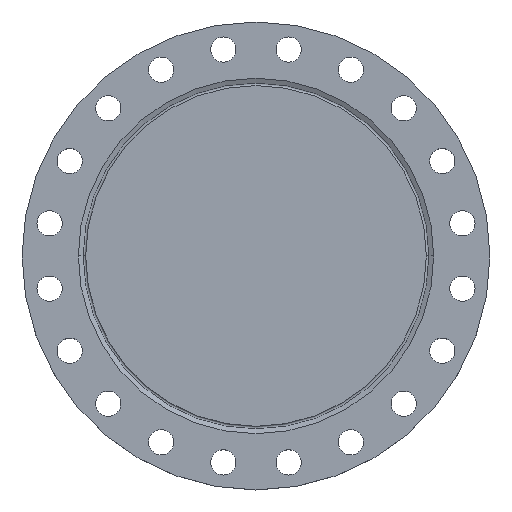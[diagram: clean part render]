
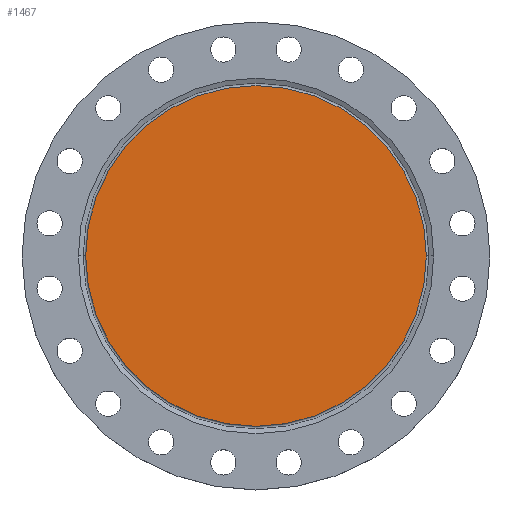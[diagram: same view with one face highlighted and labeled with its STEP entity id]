
A CAD part, top view. The second image highlights one B-rep face of the part: STEP entity #1467.
In plain terms, the highlighted planar face has unit normal (0, 0, 1).
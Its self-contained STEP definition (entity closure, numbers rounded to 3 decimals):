
#209 = CARTESIAN_POINT ( 'NONE',  ( -324., 0., 0. ) ) ;
#290 = DIRECTION ( 'NONE',  ( 1., 0., 0. ) ) ;
#292 = DIRECTION ( 'NONE',  ( 0., 0., 1. ) ) ;
#293 = CARTESIAN_POINT ( 'NONE',  ( 0., 0., 0. ) ) ;
#294 = PLANE ( 'NONE',  #1618 ) ;
#295 = FACE_OUTER_BOUND ( 'NONE', #1093, .T. ) ;
#314 = EDGE_CURVE ( 'NONE', #1547, #1067, #1070, .T. ) ;
#554 = CARTESIAN_POINT ( 'NONE',  ( 324., 0., 0. ) ) ;
#648 = EDGE_CURVE ( 'NONE', #1067, #1547, #1306, .T. ) ;
#765 = DIRECTION ( 'NONE',  ( -1., 0., 0. ) ) ;
#768 = DIRECTION ( 'NONE',  ( 0., 0., -1. ) ) ;
#769 = CARTESIAN_POINT ( 'NONE',  ( 0., 0., 0. ) ) ;
#891 = DIRECTION ( 'NONE',  ( -1., 0., 0. ) ) ;
#892 = DIRECTION ( 'NONE',  ( 0., 0., -1. ) ) ;
#893 = CARTESIAN_POINT ( 'NONE',  ( 0., 0., 0. ) ) ;
#1067 = VERTEX_POINT ( 'NONE', #554 ) ;
#1070 = CIRCLE ( 'NONE', #1075, 324. ) ;
#1075 = AXIS2_PLACEMENT_3D ( 'NONE', #893, #892, #891 ) ;
#1093 = EDGE_LOOP ( 'NONE', ( #1238, #1237 ) ) ;
#1237 = ORIENTED_EDGE ( 'NONE', *, *, #648, .F. ) ;
#1238 = ORIENTED_EDGE ( 'NONE', *, *, #314, .F. ) ;
#1306 = CIRCLE ( 'NONE', #1308, 324. ) ;
#1308 = AXIS2_PLACEMENT_3D ( 'NONE', #769, #768, #765 ) ;
#1467 = ADVANCED_FACE ( 'NONE', ( #295 ), #294, .T. ) ;
#1547 = VERTEX_POINT ( 'NONE', #209 ) ;
#1618 = AXIS2_PLACEMENT_3D ( 'NONE', #293, #292, #290 ) ;
